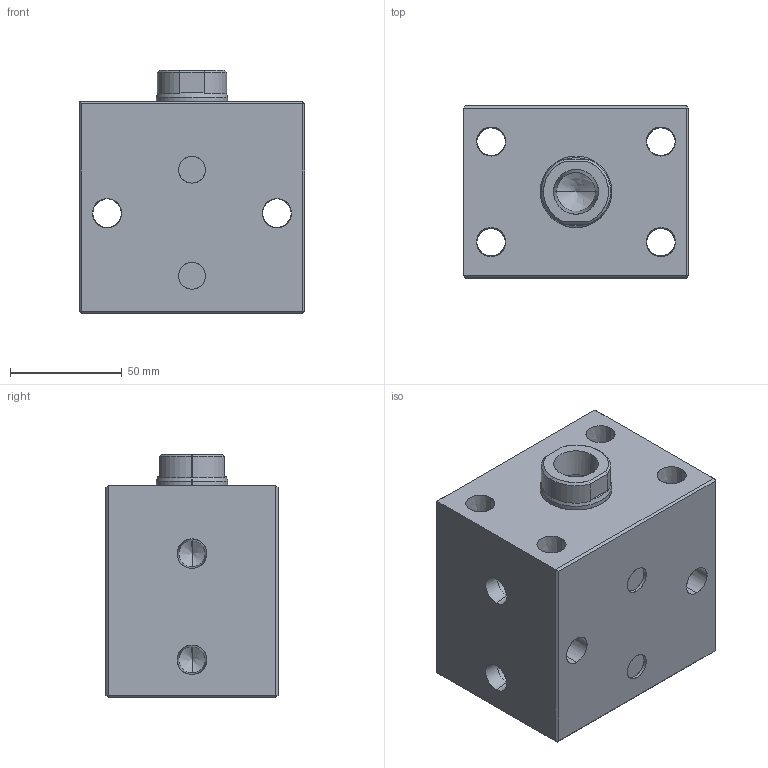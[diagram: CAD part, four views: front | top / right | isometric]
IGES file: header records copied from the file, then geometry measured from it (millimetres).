
Start section: SolidWorks IGES file using analytic representation for surfaces
Global section: file name: E:\ALL-SSVT-BLOCK\50BORE-IGS-MODEL\BC04-50-25-F.IGS; native system: SolidWorks 2019; preprocessor: SolidWorks 2019; author: SSVT; date: 210825.153348; units: millimetre
Bounding box: 101 x 77 x 109 mm (x, y, z)
Surface area: 88111.9 mm2 (no closed solid volume)
Topology: 0 solids, 0 shells, 96 faces, 1751 edges, 1745 vertices
Faces by surface type: revolution 62, bspline 34
